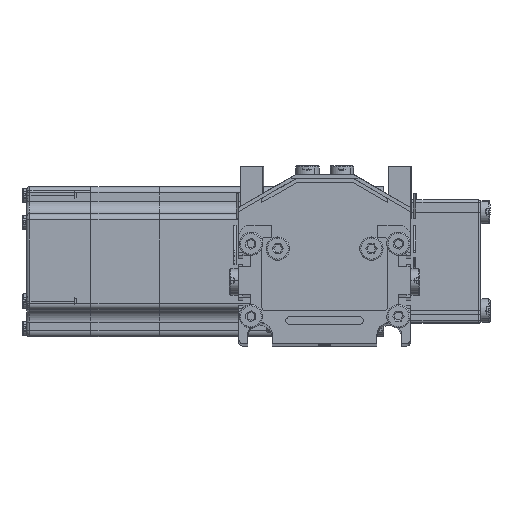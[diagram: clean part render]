
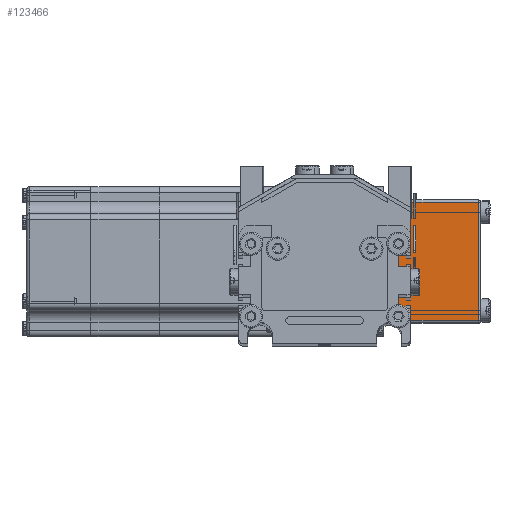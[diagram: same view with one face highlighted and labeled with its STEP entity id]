
A CAD part, top view. The second image highlights one B-rep face of the part: STEP entity #123466.
In plain terms, the highlighted planar face has unit normal (0, 0, 1) as drawn and (-1, 0, 0) by its records, which use the part's own axes.
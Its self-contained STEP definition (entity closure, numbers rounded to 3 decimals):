
#23719 = CARTESIAN_POINT ( 'NONE',  ( -50., 25., 39.5 ) ) ;
#23720 = LINE ( 'NONE', #23995, #23994 ) ;
#23743 = DIRECTION ( 'NONE',  ( 1., 0., 0. ) ) ;
#23745 = DIRECTION ( 'NONE',  ( 0., 1., 0. ) ) ;
#23787 = PLANE ( 'NONE',  #23904 ) ;
#23904 = AXIS2_PLACEMENT_3D ( 'NONE', #23719, #23743, #23745 ) ;
#23945 = FACE_OUTER_BOUND ( 'NONE', #123603, .T. ) ;
#23993 = DIRECTION ( 'NONE',  ( 0., 0., 1. ) ) ;
#23994 = VECTOR ( 'NONE', #23993, 1000. ) ;
#23995 = CARTESIAN_POINT ( 'NONE',  ( -50., -24., 39.5 ) ) ;
#24228 = CARTESIAN_POINT ( 'NONE',  ( -50., 24., 38.5 ) ) ;
#25114 = CARTESIAN_POINT ( 'NONE',  ( -50., -24., 0. ) ) ;
#27637 = DIRECTION ( 'NONE',  ( 0., 0., -1. ) ) ;
#27638 = VECTOR ( 'NONE', #27637, 1000. ) ;
#27645 = CARTESIAN_POINT ( 'NONE',  ( -50., 24., 39.5 ) ) ;
#27646 = LINE ( 'NONE', #27645, #27638 ) ;
#27659 = DIRECTION ( 'NONE',  ( 0., 1., 0. ) ) ;
#27660 = VECTOR ( 'NONE', #27659, 1000. ) ;
#27662 = CARTESIAN_POINT ( 'NONE',  ( -50., 25., 38.5 ) ) ;
#27663 = LINE ( 'NONE', #27662, #27660 ) ;
#28856 = CARTESIAN_POINT ( 'NONE',  ( -50., -24., 38.5 ) ) ;
#28980 = CARTESIAN_POINT ( 'NONE',  ( -50., 24., 0. ) ) ;
#28982 = DIRECTION ( 'NONE',  ( 0., -1., 0. ) ) ;
#28984 = VECTOR ( 'NONE', #28982, 1000. ) ;
#28993 = CARTESIAN_POINT ( 'NONE',  ( -50., 25., 0. ) ) ;
#28995 = LINE ( 'NONE', #28993, #28984 ) ;
#123460 = ORIENTED_EDGE ( 'NONE', *, *, #123907, .T. ) ;
#123466 = ADVANCED_FACE ( 'NONE', ( #23945 ), #23787, .F. ) ;
#123467 = EDGE_CURVE ( 'NONE', #123598, #123874, #23720, .T. ) ;
#123469 = VERTEX_POINT ( 'NONE', #24228 ) ;
#123598 = VERTEX_POINT ( 'NONE', #25114 ) ;
#123603 = EDGE_LOOP ( 'NONE', ( #123460, #123819, #123826, #123824 ) ) ;
#123819 = ORIENTED_EDGE ( 'NONE', *, *, #123467, .T. ) ;
#123820 = EDGE_CURVE ( 'NONE', #123874, #123469, #27663, .T. ) ;
#123824 = ORIENTED_EDGE ( 'NONE', *, *, #123827, .T. ) ;
#123826 = ORIENTED_EDGE ( 'NONE', *, *, #123820, .T. ) ;
#123827 = EDGE_CURVE ( 'NONE', #123469, #123911, #27646, .T. ) ;
#123874 = VERTEX_POINT ( 'NONE', #28856 ) ;
#123907 = EDGE_CURVE ( 'NONE', #123911, #123598, #28995, .T. ) ;
#123911 = VERTEX_POINT ( 'NONE', #28980 ) ;
